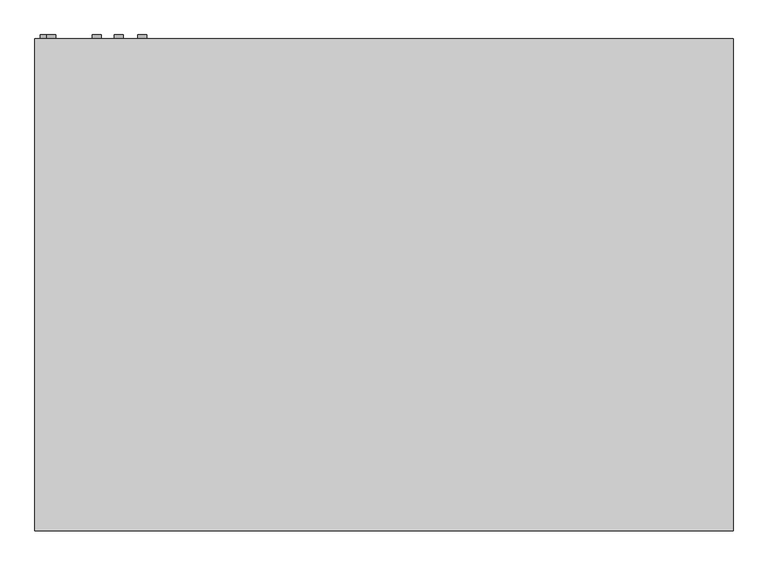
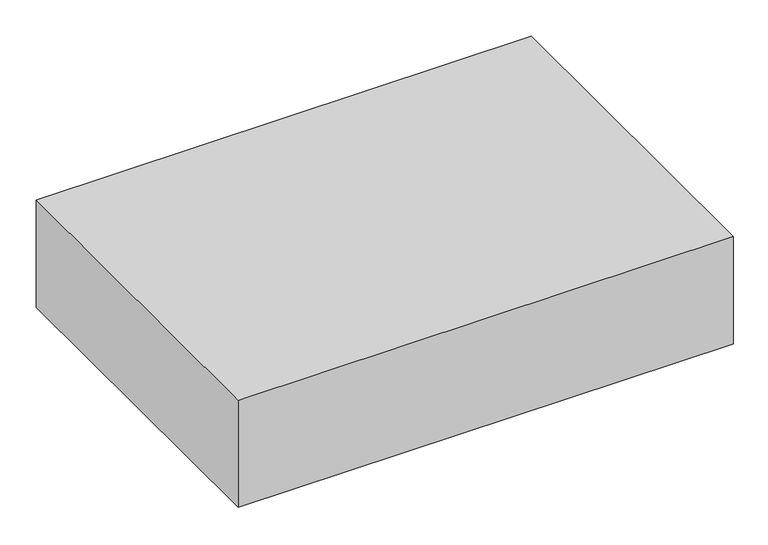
"""IFC4 building model written with IfcOpenShell, lengths in millimetres: proxy geometry, Exposed_Horizontal_Fan_Coil_Unit_-_42CGB_-_CARRIER_-_4-Pipe_BS-BR_LH_2022 : Size 04 - 277v/60Hz/1Ph - 4/1 Coil."""

from ifc_helpers import new_model, si_unit, point, frame, frame_2d, origin, place, context, project, spatial, polyline, circle_curve, trimmed, segment, composite_curve, outline, extrude, source, transform, mapped, element, save


def mechanical_equipment_f42b3099(model_context):
    return source(origin(), model_context, "Body", "SweptSolid", [
        extrude(outline(polyline([(481.0125, -465.1375), (481.0125, -611.1875), (-176.2125, -611.1875), (-176.2125, -465.1375), (481.0125, -465.1375)])), frame((0.0, 0.0, -285.75), z_axis=(0.0, 0.0, 1.0), x_axis=(1.0, 0.0, 0.0)), (0.0, 0.0, 1.0), 6.35),
        extrude(outline(composite_curve([segment(trimmed(circle_curve(frame_2d((-261.434158, -438.3546393)), 9.525), [point((-261.434158, -428.8296393))], [point((-261.434158, -447.8796393))], False, "CARTESIAN"), True, "CONTINUOUS"), segment(trimmed(circle_curve(frame_2d((-261.434158, -438.3546393)), 9.525), [point((-261.434158, -447.8796393))], [point((-261.434158, -428.8296393))], False, "CARTESIAN"), True, "CONTINUOUS")], self_intersect=False)), frame((0.0, 192.0875, 0.0), z_axis=(0.0, 1.0, 0.0), x_axis=(0.0, 0.0, 1.0)), (0.0, 0.0, 1.0), 6.35),
        extrude(outline(composite_curve([segment(trimmed(circle_curve(frame_2d((-85.725, -428.625)), 7.9375), [point((-85.725, -420.6875))], [point((-85.725, -436.5625))], False, "CARTESIAN"), True, "CONTINUOUS"), segment(trimmed(circle_curve(frame_2d((-85.725, -428.625)), 7.9375), [point((-85.725, -436.5625))], [point((-85.725, -420.6875))], False, "CARTESIAN"), True, "CONTINUOUS")], self_intersect=False)), frame((0.0, 192.0875, 0.0), z_axis=(0.0, 1.0, 0.0), x_axis=(0.0, 0.0, 1.0)), (0.0, 0.0, 1.0), 6.35),
        extrude(outline(composite_curve([segment(trimmed(circle_curve(frame_2d((-44.45, -349.25)), 7.9375), [point((-44.45, -341.3125))], [point((-44.45, -357.1875))], False, "CARTESIAN"), True, "CONTINUOUS"), segment(trimmed(circle_curve(frame_2d((-44.45, -349.25)), 7.9375), [point((-44.45, -357.1875))], [point((-44.45, -341.3125))], False, "CARTESIAN"), True, "CONTINUOUS")], self_intersect=False)), frame((0.0, 192.0875, 0.0), z_axis=(0.0, 1.0, 0.0), x_axis=(0.0, 0.0, 1.0)), (0.0, 0.0, 1.0), 6.35),
        extrude(outline(composite_curve([segment(trimmed(circle_curve(frame_2d((-95.25, -311.15)), 7.9375), [point((-95.25, -303.2125))], [point((-95.25, -319.0875))], False, "CARTESIAN"), True, "CONTINUOUS"), segment(trimmed(circle_curve(frame_2d((-95.25, -311.15)), 7.9375), [point((-95.25, -319.0875))], [point((-95.25, -303.2125))], False, "CARTESIAN"), True, "CONTINUOUS")], self_intersect=False)), frame((0.0, 192.0875, 0.0), z_axis=(0.0, 1.0, 0.0), x_axis=(0.0, 0.0, 1.0)), (0.0, 0.0, 1.0), 6.35),
        extrude(outline(composite_curve([segment(trimmed(circle_curve(frame_2d((-60.325, -269.875)), 7.9375), [point((-60.325, -261.9375))], [point((-60.325, -277.8125))], False, "CARTESIAN"), True, "CONTINUOUS"), segment(trimmed(circle_curve(frame_2d((-60.325, -269.875)), 7.9375), [point((-60.325, -277.8125))], [point((-60.325, -261.9375))], False, "CARTESIAN"), True, "CONTINUOUS")], self_intersect=False)), frame((0.0, 192.0875, 0.0), z_axis=(0.0, 1.0, 0.0), x_axis=(0.0, 0.0, 1.0)), (0.0, 0.0, 1.0), 6.35),
        extrude(outline(polyline([(-457.2, 192.0875), (762.0, 192.0875), (762.0, -668.3375), (-457.2, -668.3375), (-457.2, 192.0875)])), frame((0.0, 0.0, -279.4), z_axis=(0.0, 0.0, 1.0), x_axis=(1.0, 0.0, 0.0)), (0.0, 0.0, 1.0), 279.4),
        extrude(outline(polyline([(565.15, 115.8875), (565.15, -138.1125), (-260.35, -138.1125), (-260.35, 115.8875), (565.15, 115.8875)])), frame((0.0, 0.0, -285.75), z_axis=(0.0, 0.0, 1.0), x_axis=(1.0, 0.0, 0.0)), (0.0, 0.0, 1.0), 6.35),
    ])


if __name__ == "__main__":
    model = new_model("IFC4")
    model_context = context("Model", 3, world=origin())
    ifc_project = project(units=[si_unit("LENGTHUNIT", "METRE", prefix="MILLI")], contexts=[model_context])
    site = spatial("IfcSite", under=ifc_project)
    building = spatial("IfcBuilding", under=site)
    placement = place(None, origin())
    mechanical_equipment_shape = mechanical_equipment_f42b3099(model_context)
    element("IfcBuildingElementProxy", 1, Name="Exposed_Horizontal_Fan_Coil_Unit_-_42CGB_-_CARRIER_-_4-Pipe_BS-BR_LH_2022 : Size 04 - 277v/60Hz/1Ph - 4/1 Coil", ObjectType="Exposed_Horizontal_Fan_Coil_Unit_-_42CGB_-_CARRIER_-_4-Pipe_BS-BR_LH_2022 : Size 04 - 277v/60Hz/1Ph - 4/1 Coil", at=placement, inside=building, context=model_context, shape_type="MappedRepresentation", body=[
        mapped(mechanical_equipment_shape, transform((0.0, 0.0, 0.0), x_axis=(1.0, 0.0, 0.0), y_axis=(0.0, 1.0, 0.0), z_axis=(0.0, 0.0, 1.0))),
    ])
    save(model, "model.ifc")
